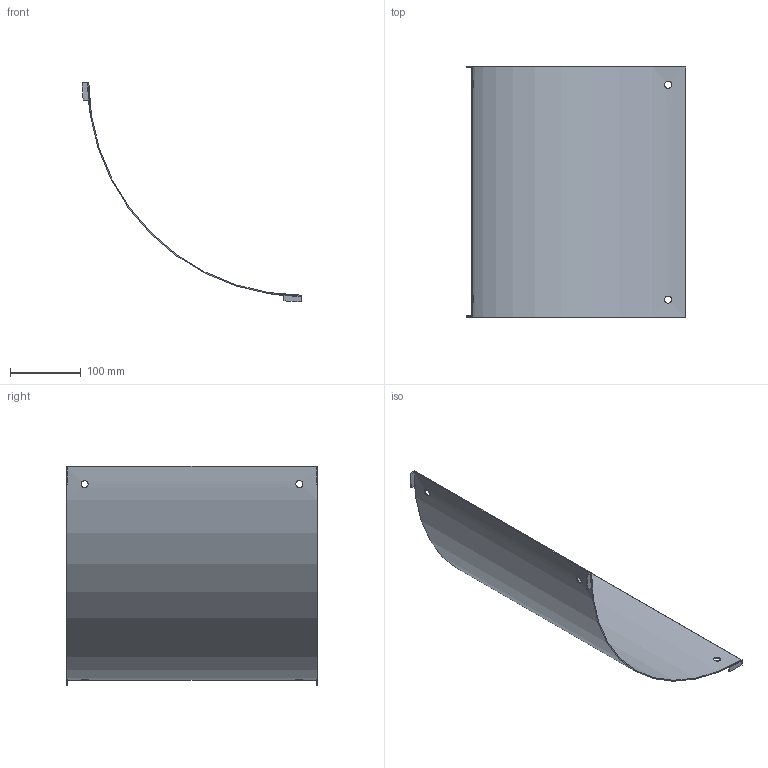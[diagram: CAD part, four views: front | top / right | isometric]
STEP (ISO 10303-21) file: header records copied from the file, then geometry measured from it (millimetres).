
FILE_DESCRIPTION(/* description */ ('','CAx-IF Rec.Pracs.---Representation and Presentation of Product Manufacturing Information (PMI)---4.0---2014-10-13'),/* implementation_level */ '2;1');
FILE_NAME(/* name */ 'Eurostrut_EIRC300-90-300_Cover Inside Riser 90 for Cable Ladder ECL.step',/* time_stamp */ '2026-09-10T11:55:02+02:00',/* author */ (''),/* organization */ (''),/* preprocessor_version */ 'ST-DEVELOPER v20.1',/* originating_system */ 'Autodesk Revit 2027 27.2.0.39',/* authorisation */ '');
FILE_SCHEMA (('AP242_MANAGED_MODEL_BASED_3D_ENGINEERING_MIM_LF { 1 0 10303 442 2 1 4 }'));
Length unit declared in the file: millimetre
Products named in the file (3): TopLevelAssembly; Sweep; Joined Solid Geometry
Assembly tree (2 placements, depth 2):
  TopLevelAssembly
    Sweep
    Joined Solid Geometry
Bounding box: 309 x 353 x 309 mm (x, y, z)
Volume: 250799.8 mm3; surface area: 337455.2 mm2
Topology: 5 solids, 5 shells, 38 faces, 84 edges, 56 vertices
Faces by surface type: plane 20, cylinder 18
Entity records: 1358 total; most frequent: CARTESIAN_POINT 461, DIRECTION 174, ORIENTED_EDGE 168, EDGE_CURVE 84, AXIS2_PLACEMENT_3D 63, VERTEX_POINT 56, LINE 48, VECTOR 48
